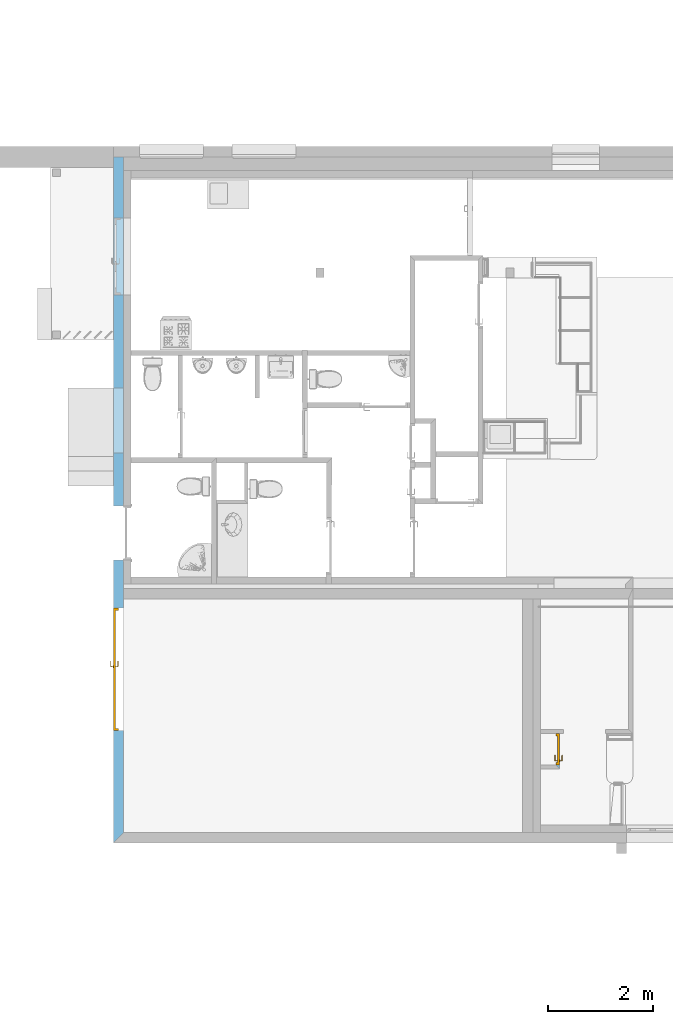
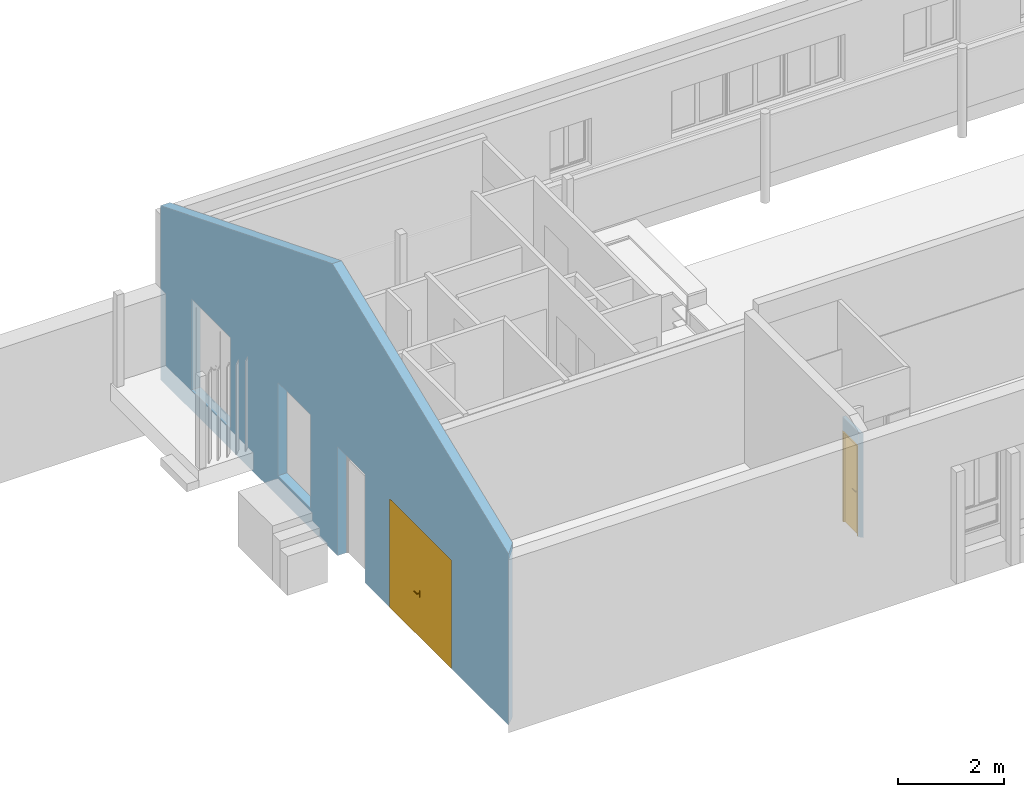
# One storey, part 14 of 34: 2 doors, 5 openings, plus 2 elements that do not belong to this part.
"""IFC2X3 building model written with IfcOpenShell, lengths in metres."""

from ifc_helpers import new_model, entity, si_unit, converted_unit, derived_unit, money_unit, direction, frame, origin_with_axes, origin_2d_with_axis, place, context, subcontext, project, spatial, polyline, rectangle, outline, extrude, clip, bounded_halfspace, faceted_brep, material, layer, layer_set, layer_usage, type_object, element, fill, save


model = new_model("IFC2X3")

# Units and contexts
model_context = context("Model", 3, precision=1e-05, world=origin_with_axes(), true_north=direction((0.0, 1.0)))
body_context = subcontext(model_context, "Body", "Model", "MODEL_VIEW")
ifc_project = project(units=[si_unit("LENGTHUNIT", "METRE"), si_unit("AREAUNIT", "SQUARE_METRE"), si_unit("VOLUMEUNIT", "CUBIC_METRE"), converted_unit("PLANEANGLEUNIT", "DEGREE", entity("IfcPlaneAngleMeasure", 0.0174532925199), si_unit("PLANEANGLEUNIT", "RADIAN"), dimensions=[0, 0, 0, 0, 0, 0, 0]), money_unit("CHF"), converted_unit("TIMEUNIT", "Year", entity("IfcTimeMeasure", 31556926.0), si_unit("TIMEUNIT", "SECOND"), dimensions=[0, 0, 1, 0, 0, 0, 0]), si_unit("MASSUNIT", "GRAM", prefix="KILO"), si_unit("THERMODYNAMICTEMPERATUREUNIT", "DEGREE_CELSIUS"), si_unit("LUMINOUSINTENSITYUNIT", "LUMEN"), si_unit("ENERGYUNIT", "JOULE", prefix="MEGA"), derived_unit("THERMALCONDUCTANCEUNIT", [(si_unit("POWERUNIT", "WATT"), 1), (si_unit("LENGTHUNIT", "METRE"), -1), (si_unit("THERMODYNAMICTEMPERATUREUNIT", "KELVIN"), -1)]), derived_unit("SPECIFICHEATCAPACITYUNIT", [(si_unit("ENERGYUNIT", "JOULE"), 1), (si_unit("MASSUNIT", "GRAM", prefix="KILO"), -1), (si_unit("THERMODYNAMICTEMPERATUREUNIT", "KELVIN"), -1)]), derived_unit("MASSDENSITYUNIT", [(si_unit("MASSUNIT", "GRAM", prefix="KILO"), 1), (si_unit("VOLUMEUNIT", "CUBIC_METRE"), -1)])], contexts=[model_context])

# Site, building, storey
site_placement = place(None, origin_with_axes())
site = spatial("IfcSite", under=ifc_project, at=site_placement, Name="Site", CompositionType="ELEMENT")
building_placement = place(site_placement, origin_with_axes())
building = spatial("IfcBuilding", under=site, at=building_placement, Name="Bâtiment", CompositionType="ELEMENT")
storey_placement = place(building_placement, origin_with_axes())
storey = spatial("IfcBuildingStorey", under=building, at=storey_placement, Name="RDC", CompositionType="ELEMENT", Elevation=-5.32907e-15)

# Wall, openings, door
ifc_material_1 = material(Name="Diagonales 1167258944")
ifc_layer_1 = layer(ifc_material_1, 0.2, ventilated="UNKNOWN")
ifc_layer_set_1 = layer_set([ifc_layer_1], Name="Diagonales 1167258944 0.2")
ifc_layer_usage_1 = layer_usage(ifc_layer_set_1, "AXIS2", "NEGATIVE", 0.0)
wall_type_1 = type_object("IfcWallType", Name="Diagonales 1167258944 200", PredefinedType="NOTDEFINED")
wall_1_placement = place(storey_placement, frame((1667.41729001, 177.38004191, 0.0), z_axis=(0.0, 0.0, 1.0), x_axis=(0.0, 1.0, 0.0)))
wall_1 = element("IfcWallStandardCase", 1, at=wall_1_placement, inside=storey, type_object=wall_type_1, material=ifc_layer_usage_1, Name="Mur-006", context=body_context, shape_type="Clipping", body=[
    clip(clip(clip(clip(extrude(outline(polyline([(0.2, -0.2), (13.12, -0.2), (13.12, 0.0), (0.0, 0.0), (0.2, -0.2)])), origin_with_axes(), (0.0, 0.0, 1.0), 6.78521652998), bounded_halfspace(frame((3.21237436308, 0.0, 8.03093590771), z_axis=(-0.371390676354, 0.0, -0.928476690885), x_axis=(0.0, 1.0, 0.0)), True, origin_with_axes(), polyline([(6.67517251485, -0.21), (13.8351825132, -0.21), (13.8351825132, 0.01), (6.67517251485, 0.01), (6.67517251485, -0.21)]))), bounded_halfspace(frame((-1.37205844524, 0.0, 3.4301461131), z_axis=(0.371390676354, 0.0, -0.928476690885), x_axis=(0.0, 1.0, 0.0)), True, origin_with_axes(), polyline([(-0.492892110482, -0.21), (6.66711788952, -0.21), (6.66711788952, 0.01), (-0.492892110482, 0.01), (-0.492892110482, -0.21)]))), bounded_halfspace(frame((3.19162261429, 0.0, 7.97905653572), z_axis=(-0.371390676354, 0.0, -0.928476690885), x_axis=(0.0, 1.0, 0.0)), True, origin_with_axes(), polyline([(6.645, -0.21), (13.6119553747, -0.21), (13.6119553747, 0.01), (6.645, 0.01), (6.645, -0.21)]))), bounded_halfspace(frame((-1.35851916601, 0.0, 3.39629791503), z_axis=(0.371390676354, 0.0, -0.928476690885), x_axis=(0.0, 1.0, 0.0)), True, origin_with_axes(), polyline([(-0.30001, -0.21), (6.645, -0.21), (6.645, 0.01), (-0.30001, 0.01), (-0.30001, -0.21)]))),
])
opening_1_placement = place(wall_1_placement, frame((8.08126066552, 0.0, 0.47), z_axis=(0.0, 0.0, 1.0), x_axis=(1.0, 0.0, 0.0)))
element("IfcOpeningElement", 2, at=opening_1_placement, cuts=wall_1, Name="Por-004", context=body_context, shape_type="SweptSolid", body=[
    extrude(rectangle(XDim=1.24, YDim=2.15, at=origin_2d_with_axis()), frame((0.0, -0.2, 1.075), z_axis=(0.0, 1.0, 0.0), x_axis=(1.0, 0.0, 0.0)), (0.0, 0.0, 1.0), 0.6),
])
opening_2_placement = place(wall_1_placement, frame((3.32, 0.0, 0.0), z_axis=(0.0, 0.0, 1.0), x_axis=(1.0, 0.0, 0.0)))
opening_2 = element("IfcOpeningElement", 3, at=opening_2_placement, cuts=wall_1, Name="Por-006", context=body_context, shape_type="SweptSolid", body=[
    extrude(rectangle(XDim=2.34, YDim=2.5, at=origin_2d_with_axis()), frame((0.0, -0.2, 1.25), z_axis=(0.0, 1.0, 0.0), x_axis=(1.0, 0.0, 0.0)), (0.0, 0.0, 1.0), 0.6),
])
opening_3_placement = place(wall_1_placement, frame((5.93030712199, 0.0, 0.0), z_axis=(0.0, 0.0, 1.0), x_axis=(1.0, 0.0, 0.0)))
element("IfcOpeningElement", 4, at=opening_3_placement, cuts=wall_1, Name="Por-004", context=body_context, shape_type="SweptSolid", body=[
    extrude(rectangle(XDim=1.03, YDim=2.5, at=origin_2d_with_axis()), frame((0.0, 0.0, 1.25), z_axis=(0.0, -1.0, 0.0), x_axis=(1.0, 0.0, 0.0)), (0.0, 0.0, -1.0), 0.2),
    extrude(rectangle(XDim=1.03, YDim=2.5, at=origin_2d_with_axis()), frame((0.0, 0.0, 1.25), z_axis=(0.0, 1.0, 0.0), x_axis=(1.0, 0.0, 0.0)), (0.0, 0.0, -1.0), 0.2),
])
opening_4_placement = place(wall_1_placement, frame((11.2210248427, 0.0, 0.47), z_axis=(0.0, 0.0, 1.0), x_axis=(1.0, 0.0, 0.0)))
element("IfcOpeningElement", 5, at=opening_4_placement, cuts=wall_1, Name="Por-007", context=body_context, shape_type="SweptSolid", body=[
    extrude(rectangle(XDim=1.47, YDim=2.1, at=origin_2d_with_axis()), frame((0.0, 0.0, 1.05), z_axis=(0.0, -1.0, 0.0), x_axis=(1.0, 0.0, 0.0)), (0.0, 0.0, -1.0), 0.2),
    extrude(rectangle(XDim=1.47, YDim=2.1, at=origin_2d_with_axis()), frame((0.0, 0.0, 1.05), z_axis=(0.0, 1.0, 0.0), x_axis=(1.0, 0.0, 0.0)), (0.0, 0.0, -1.0), 0.2),
])
door_style_1 = type_object("IfcDoorStyle", Name="Porte double 25", ConstructionType="NOTDEFINED", OperationType="DOUBLE_DOOR_SINGLE_SWING", ParameterTakesPrecedence=False, Sizeable=False)
door_1_placement = place(opening_2_placement, frame((-1.17, 0.0, 0.0), z_axis=(0.0, 0.0, 1.0), x_axis=(1.0, 0.0, 0.0)))
door_1 = element("IfcDoor", 6, at=door_1_placement, inside=storey, type_object=door_style_1, Name="Por-006", OverallHeight=2.5, OverallWidth=2.34, context=body_context, shape_type="Brep", body=[
    faceted_brep([(0.04, -0.04, 0.0), (0.04, -0.04, 2.46), (0.04, -0.1, 2.46), (0.04, -0.1, 0.0), (0.028, -0.04, 2.46), (0.028, -0.04, 0.0), (0.028, 0.0, 2.46), (0.0, 0.0, 2.46), (0.0, -0.1, 2.46), (0.0, -0.1, 0.0), (0.0, 0.0, 0.0), (0.028, 0.0, 0.0)], [[[0, 1, 2, 3]], [[4, 1, 0, 5]], [[4, 6, 7, 8, 2, 1]], [[3, 2, 8, 9]], [[5, 0, 3, 9, 10, 11]], [[6, 4, 5, 11]], [[6, 11, 10, 7]], [[10, 9, 8, 7]]]),
    faceted_brep([(2.312, -0.04, 2.46), (2.3, -0.04, 2.46), (2.3, -0.1, 2.46), (2.34, -0.1, 2.46), (2.34, 0.0, 2.46), (2.312, 0.0, 2.46), (2.312, -0.04, 0.0), (2.3, -0.04, 0.0), (2.3, -0.1, 0.0), (2.34, -0.1, 0.0), (2.34, 0.0, 0.0), (2.312, 0.0, 0.0)], [[[0, 1, 2, 3, 4, 5]], [[1, 0, 6, 7]], [[1, 7, 8, 2]], [[3, 2, 8, 9]], [[4, 3, 9, 10]], [[11, 5, 4, 10]], [[0, 5, 11, 6]], [[6, 11, 10, 9, 8, 7]]]),
    faceted_brep([(0.028, 0.0, 2.472), (0.028, 0.0, 2.46), (0.0, 0.0, 2.46), (0.0, 0.0, 2.5), (2.34, 0.0, 2.5), (2.34, 0.0, 2.46), (2.312, 0.0, 2.46), (2.312, 0.0, 2.472), (0.028, -0.04, 2.472), (0.028, -0.04, 2.46), (0.04, -0.04, 2.46), (0.04, -0.1, 2.46), (0.0, -0.1, 2.46), (0.0, -0.1, 2.5), (2.34, -0.1, 2.5), (2.34, -0.1, 2.46), (2.312, -0.04, 2.46), (2.3, -0.1, 2.46), (2.3, -0.04, 2.46), (2.312, -0.04, 2.472)], [[[0, 1, 2, 3, 4, 5, 6, 7]], [[1, 0, 8, 9]], [[9, 10, 11, 12, 2, 1]], [[2, 12, 13, 3]], [[3, 13, 14, 4]], [[4, 14, 15, 5]], [[16, 6, 5, 15, 17, 18]], [[7, 6, 16, 19]], [[0, 7, 19, 8]], [[16, 18, 10, 9, 8, 19]], [[10, 18, 17, 11]], [[17, 15, 14, 13, 12, 11]]]),
    faceted_brep([(1.195, -0.04, 0.93), (1.19690301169, -0.04, 0.920432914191), (1.19690301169, -0.045, 0.920432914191), (1.195, -0.045, 0.93), (1.195, -0.04, 1.055), (1.19690301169, -0.04, 1.06456708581), (1.20232233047, -0.04, 1.07267766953), (1.21043291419, -0.04, 1.07809698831), (1.22, -0.04, 1.08), (1.22956708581, -0.04, 1.07809698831), (1.23767766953, -0.04, 1.07267766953), (1.24309698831, -0.04, 1.06456708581), (1.245, -0.04, 1.055), (1.245, -0.04, 0.93), (1.24309698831, -0.04, 0.920432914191), (1.23767766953, -0.04, 0.91232233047), (1.22956708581, -0.04, 0.906903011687), (1.22, -0.04, 0.905), (1.21043291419, -0.04, 0.906903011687), (1.20232233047, -0.04, 0.91232233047), (1.20232233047, -0.045, 0.91232233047), (1.21043291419, -0.045, 0.906903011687), (1.22, -0.045, 0.905), (1.22956708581, -0.045, 0.906903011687), (1.23767766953, -0.045, 0.91232233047), (1.24309698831, -0.045, 0.920432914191), (1.245, -0.045, 0.93), (1.245, -0.045, 1.055), (1.24309698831, -0.045, 1.06456708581), (1.23767766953, -0.045, 1.07267766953), (1.22956708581, -0.045, 1.07809698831), (1.22, -0.045, 1.08), (1.21043291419, -0.045, 1.07809698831), (1.20232233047, -0.045, 1.07267766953), (1.19690301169, -0.045, 1.06456708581), (1.195, -0.045, 1.055)], [[[0, 1, 2, 3]], [[0, 4, 5, 6, 7, 8, 9, 10, 11, 12, 13, 14, 15, 16, 17, 18, 19, 1]], [[1, 19, 20, 2]], [[3, 2, 20, 21, 22, 23, 24, 25, 26, 27, 28, 29, 30, 31, 32, 33, 34, 35]], [[4, 0, 3, 35]], [[5, 4, 35, 34]], [[6, 5, 34, 33]], [[7, 6, 33, 32]], [[8, 7, 32, 31]], [[9, 8, 31, 30]], [[10, 9, 30, 29]], [[11, 10, 29, 28]], [[12, 11, 28, 27]], [[13, 12, 27, 26]], [[14, 13, 26, 25]], [[15, 14, 25, 24]], [[16, 15, 24, 23]], [[17, 16, 23, 22]], [[18, 17, 22, 21]], [[19, 18, 21, 20]]]),
    faceted_brep([(1.2275, -0.045, 1.005), (1.2275, -0.075, 1.005), (1.2275, -0.075, 0.995), (1.2275, -0.045, 0.995), (1.2125, -0.045, 1.005), (1.2125, -0.082, 1.005), (1.21348956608, -0.0869748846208, 1.005), (1.21630761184, -0.0911923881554, 1.005), (1.22052511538, -0.0940104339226, 1.005), (1.2255, -0.095, 1.005), (1.3325, -0.095, 1.005), (1.3325, -0.093, 1.005), (1.33151043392, -0.0880251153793, 1.005), (1.32869238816, -0.0838076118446, 1.005), (1.32447488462, -0.0809895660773, 1.005), (1.3195, -0.08, 1.005), (1.2325, -0.08, 1.005), (1.23058658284, -0.0796193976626, 1.005), (1.22896446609, -0.0785355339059, 1.005), (1.22788060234, -0.0769134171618, 1.005), (1.22788060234, -0.0769134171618, 0.995), (1.22896446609, -0.0785355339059, 0.995), (1.23058658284, -0.0796193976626, 0.995), (1.2325, -0.08, 0.995), (1.3195, -0.08, 0.995), (1.32447488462, -0.0809895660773, 0.995), (1.32869238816, -0.0838076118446, 0.995), (1.33151043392, -0.0880251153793, 0.995), (1.3325, -0.093, 0.995), (1.3325, -0.095, 0.995), (1.2255, -0.095, 0.995), (1.22052511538, -0.0940104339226, 0.995), (1.21630761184, -0.0911923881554, 0.995), (1.21348956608, -0.0869748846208, 0.995), (1.2125, -0.082, 0.995), (1.2125, -0.045, 0.995)], [[[0, 1, 2, 3]], [[0, 4, 5, 6, 7, 8, 9, 10, 11, 12, 13, 14, 15, 16, 17, 18, 19, 1]], [[1, 19, 20, 2]], [[3, 2, 20, 21, 22, 23, 24, 25, 26, 27, 28, 29, 30, 31, 32, 33, 34, 35]], [[4, 0, 3, 35]], [[5, 4, 35, 34]], [[6, 5, 34, 33]], [[7, 6, 33, 32]], [[8, 7, 32, 31]], [[9, 8, 31, 30]], [[10, 9, 30, 29]], [[11, 10, 29, 28]], [[12, 11, 28, 27]], [[13, 12, 27, 26]], [[14, 13, 26, 25]], [[15, 14, 25, 24]], [[16, 15, 24, 23]], [[17, 16, 23, 22]], [[18, 17, 22, 21]], [[19, 18, 21, 20]]]),
    faceted_brep([(1.195, 0.0, 0.93), (1.195, 0.005, 0.93), (1.19690301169, 0.005, 0.920432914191), (1.19690301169, 0.0, 0.920432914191), (1.195, 0.0, 1.055), (1.195, 0.005, 1.055), (1.19690301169, 0.005, 1.06456708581), (1.20232233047, 0.005, 1.07267766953), (1.21043291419, 0.005, 1.07809698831), (1.22, 0.005, 1.08), (1.22956708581, 0.005, 1.07809698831), (1.23767766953, 0.005, 1.07267766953), (1.24309698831, 0.005, 1.06456708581), (1.245, 0.005, 1.055), (1.245, 0.005, 0.93), (1.24309698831, 0.005, 0.920432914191), (1.23767766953, 0.005, 0.91232233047), (1.22956708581, 0.005, 0.906903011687), (1.22, 0.005, 0.905), (1.21043291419, 0.005, 0.906903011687), (1.20232233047, 0.005, 0.91232233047), (1.20232233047, 0.0, 0.91232233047), (1.21043291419, 0.0, 0.906903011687), (1.22, 0.0, 0.905), (1.22956708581, 0.0, 0.906903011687), (1.23767766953, 0.0, 0.91232233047), (1.24309698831, 0.0, 0.920432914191), (1.245, 0.0, 0.93), (1.245, 0.0, 1.055), (1.24309698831, 0.0, 1.06456708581), (1.23767766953, 0.0, 1.07267766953), (1.22956708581, 0.0, 1.07809698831), (1.22, 0.0, 1.08), (1.21043291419, 0.0, 1.07809698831), (1.20232233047, 0.0, 1.07267766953), (1.19690301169, 0.0, 1.06456708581)], [[[0, 1, 2, 3]], [[4, 5, 1, 0]], [[1, 5, 6, 7, 8, 9, 10, 11, 12, 13, 14, 15, 16, 17, 18, 19, 20, 2]], [[3, 2, 20, 21]], [[0, 3, 21, 22, 23, 24, 25, 26, 27, 28, 29, 30, 31, 32, 33, 34, 35, 4]], [[35, 6, 5, 4]], [[34, 7, 6, 35]], [[33, 8, 7, 34]], [[32, 9, 8, 33]], [[31, 10, 9, 32]], [[30, 11, 10, 31]], [[29, 12, 11, 30]], [[28, 13, 12, 29]], [[27, 14, 13, 28]], [[26, 15, 14, 27]], [[25, 16, 15, 26]], [[24, 17, 16, 25]], [[23, 18, 17, 24]], [[22, 19, 18, 23]], [[21, 20, 19, 22]]]),
    faceted_brep([(1.2275, 0.005, 1.005), (1.2275, 0.005, 0.995), (1.2275, 0.035, 0.995), (1.2275, 0.035, 1.005), (1.2125, 0.005, 1.005), (1.2125, 0.005, 0.995), (1.2125, 0.042, 0.995), (1.21348956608, 0.0469748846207, 0.995), (1.21630761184, 0.0511923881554, 0.995), (1.22052511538, 0.0540104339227, 0.995), (1.2255, 0.055, 0.995), (1.3325, 0.055, 0.995), (1.3325, 0.053, 0.995), (1.33151043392, 0.0480251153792, 0.995), (1.32869238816, 0.0438076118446, 0.995), (1.32447488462, 0.0409895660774, 0.995), (1.3195, 0.04, 0.995), (1.2325, 0.04, 0.995), (1.23058658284, 0.0396193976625, 0.995), (1.22896446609, 0.0385355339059, 0.995), (1.22788060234, 0.0369134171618, 0.995), (1.22788060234, 0.0369134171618, 1.005), (1.22896446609, 0.0385355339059, 1.005), (1.23058658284, 0.0396193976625, 1.005), (1.2325, 0.04, 1.005), (1.3195, 0.04, 1.005), (1.32447488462, 0.0409895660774, 1.005), (1.32869238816, 0.0438076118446, 1.005), (1.33151043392, 0.0480251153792, 1.005), (1.3325, 0.053, 1.005), (1.3325, 0.055, 1.005), (1.2255, 0.055, 1.005), (1.22052511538, 0.0540104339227, 1.005), (1.21630761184, 0.0511923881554, 1.005), (1.21348956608, 0.0469748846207, 1.005), (1.2125, 0.042, 1.005)], [[[0, 1, 2, 3]], [[4, 5, 1, 0]], [[1, 5, 6, 7, 8, 9, 10, 11, 12, 13, 14, 15, 16, 17, 18, 19, 20, 2]], [[3, 2, 20, 21]], [[0, 3, 21, 22, 23, 24, 25, 26, 27, 28, 29, 30, 31, 32, 33, 34, 35, 4]], [[35, 6, 5, 4]], [[34, 7, 6, 35]], [[33, 8, 7, 34]], [[32, 9, 8, 33]], [[31, 10, 9, 32]], [[30, 11, 10, 31]], [[29, 12, 11, 30]], [[28, 13, 12, 29]], [[27, 14, 13, 28]], [[26, 15, 14, 27]], [[25, 16, 15, 26]], [[24, 17, 16, 25]], [[23, 18, 17, 24]], [[22, 19, 18, 23]], [[21, 20, 19, 22]]]),
    faceted_brep([(2.312, 0.0, 0.0), (2.312, -0.04, 0.0), (1.17, -0.04, 0.0), (1.17, 0.0, 0.0), (2.312, 0.0, 2.472), (2.312, -0.04, 2.472), (1.17, -0.04, 2.472), (1.17, 0.0, 2.472)], [[[0, 1, 2, 3]], [[4, 5, 1, 0]], [[1, 5, 6, 2]], [[3, 2, 6, 7]], [[0, 3, 7, 4]], [[7, 6, 5, 4]]]),
    faceted_brep([(0.028, 0.0, 0.0), (1.17, 0.0, 0.0), (1.17, -0.04, 0.0), (0.028, -0.04, 0.0), (0.028, 0.0, 2.472), (1.17, 0.0, 2.472), (1.17, -0.04, 2.472), (0.028, -0.04, 2.472)], [[[0, 1, 2, 3]], [[0, 4, 5, 1]], [[1, 5, 6, 2]], [[3, 2, 6, 7]], [[4, 0, 3, 7]], [[5, 4, 7, 6]]]),
])
fill(opening_2, door_1)

# Wall, opening, door
ifc_material_2 = material(Name="Plâtre lissé 291446788")
ifc_layer_2 = layer(ifc_material_2, 0.027, ventilated="UNKNOWN")
ifc_material_3 = material(Name="Isolation laine de pierre 307970822")
ifc_layer_3 = layer(ifc_material_3, 0.032, ventilated="UNKNOWN")
ifc_layer_4 = layer(ifc_material_2, 0.0113, ventilated="UNKNOWN")
ifc_layer_set_2 = layer_set([ifc_layer_2, ifc_layer_3, ifc_layer_4], Name="Cloison: Gaine TECH 72/45")
ifc_layer_usage_2 = layer_usage(ifc_layer_set_2, "AXIS2", "NEGATIVE", 0.0)
wall_type_2 = type_object("IfcWallType", Name="Cloison: Gaine TECH 72/45  70", PredefinedType="NOTDEFINED")
wall_2_placement = place(storey_placement, frame((1675.95729001, 179.55004191, 0.47), z_axis=(0.0, 0.0, 1.0), x_axis=(0.0, -1.0, 0.0)))
wall_2 = element("IfcWallStandardCase", 7, at=wall_2_placement, inside=storey, type_object=wall_type_2, material=ifc_layer_usage_2, Name="Mur-010", context=body_context, shape_type="SweptSolid", body=[
    extrude(outline(polyline([(0.081, -0.0703), (0.6827, -0.0703), (0.753, 0.0), (0.081, 0.0), (0.081, -0.0703)])), origin_with_axes(), (0.0, 0.0, 1.0), 2.40444223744),
])
opening_5_placement = place(wall_2_placement, frame((0.379, 0.0, 0.0), z_axis=(0.0, 0.0, 1.0), x_axis=(1.0, 0.0, 0.0)))
opening_5 = element("IfcOpeningElement", 8, at=opening_5_placement, cuts=wall_2, Name="Por-004", context=body_context, shape_type="SweptSolid", body=[
    extrude(rectangle(XDim=0.596, YDim=2.1, at=origin_2d_with_axis()), frame((0.0, -0.0703, 1.05), z_axis=(0.0, -1.0, 0.0), x_axis=(-1.0, 0.0, 0.0)), (0.0, 0.0, -1.0), 0.2109),
])
door_style_2 = type_object("IfcDoorStyle", Name="Porte 25", ConstructionType="NOTDEFINED", OperationType="SINGLE_SWING_LEFT", ParameterTakesPrecedence=False, Sizeable=False)
door_2_placement = place(opening_5_placement, frame((-0.27, 0.0, 0.0), z_axis=(0.0, 0.0, 1.0), x_axis=(1.0, 0.0, 0.0)))
door_2 = element("IfcDoor", 9, at=door_2_placement, inside=storey, type_object=door_style_2, Name="Por-004", OverallHeight=2.1, OverallWidth=0.596, context=body_context, shape_type="Brep", body=[
    faceted_brep([(0.528, -0.04, 0.0), (0.528, -0.0703, 0.0), (0.528, -0.0703, 2.06), (0.528, -0.04, 2.06), (0.54, -0.04, 0.0), (0.54, 0.0, 0.0), (0.568, 0.0, 0.0), (0.568, -0.0703, 0.0), (0.568, -0.0703, 2.06), (0.54, -0.04, 2.06), (0.568, 0.0, 2.06), (0.54, 0.0, 2.06)], [[[0, 1, 2, 3]], [[4, 5, 6, 7, 1, 0]], [[1, 7, 8, 2]], [[9, 3, 2, 8, 10, 11]], [[9, 4, 0, 3]], [[11, 5, 4, 9]], [[11, 10, 6, 5]], [[6, 10, 8, 7]]]),
    faceted_brep([(0.0, -0.04, 2.06), (0.0, 0.0, 2.06), (-0.028, 0.0, 2.06), (-0.028, -0.0703, 2.06), (0.012, -0.0703, 2.06), (0.012, -0.04, 2.06), (0.0, -0.04, 0.0), (0.0, 0.0, 0.0), (-0.028, 0.0, 0.0), (-0.028, -0.0703, 0.0), (0.012, -0.0703, 0.0), (0.012, -0.04, 0.0)], [[[0, 1, 2, 3, 4, 5]], [[0, 6, 7, 1]], [[7, 8, 2, 1]], [[2, 8, 9, 3]], [[3, 9, 10, 4]], [[5, 4, 10, 11]], [[5, 11, 6, 0]], [[6, 11, 10, 9, 8, 7]]]),
    faceted_brep([(0.54, 0.0, 2.072), (0.0, 0.0, 2.072), (0.0, 0.0, 2.06), (-0.028, 0.0, 2.06), (-0.028, 0.0, 2.1), (0.568, 0.0, 2.1), (0.568, 0.0, 2.06), (0.54, 0.0, 2.06), (0.54, -0.04, 2.072), (0.0, -0.04, 2.072), (0.0, -0.04, 2.06), (0.012, -0.04, 2.06), (0.012, -0.0703, 2.06), (-0.028, -0.0703, 2.06), (-0.028, -0.0703, 2.1), (0.568, -0.0703, 2.1), (0.568, -0.0703, 2.06), (0.54, -0.04, 2.06), (0.528, -0.0703, 2.06), (0.528, -0.04, 2.06)], [[[0, 1, 2, 3, 4, 5, 6, 7]], [[0, 8, 9, 1]], [[1, 9, 10, 2]], [[10, 11, 12, 13, 3, 2]], [[4, 3, 13, 14]], [[5, 4, 14, 15]], [[6, 5, 15, 16]], [[17, 7, 6, 16, 18, 19]], [[7, 17, 8, 0]], [[10, 9, 8, 17, 19, 11]], [[19, 18, 12, 11]], [[12, 18, 16, 15, 14, 13]]]),
    faceted_brep([(0.515, -0.04, 0.93), (0.515, -0.045, 0.93), (0.513096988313, -0.045, 0.920432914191), (0.513096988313, -0.04, 0.920432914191), (0.515, -0.04, 1.055), (0.515, -0.045, 1.055), (0.513096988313, -0.045, 1.06456708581), (0.50767766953, -0.045, 1.07267766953), (0.499567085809, -0.045, 1.07809698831), (0.49, -0.045, 1.08), (0.480432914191, -0.045, 1.07809698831), (0.47232233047, -0.045, 1.07267766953), (0.466903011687, -0.045, 1.06456708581), (0.465, -0.045, 1.055), (0.465, -0.045, 0.93), (0.466903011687, -0.045, 0.920432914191), (0.47232233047, -0.045, 0.91232233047), (0.480432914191, -0.045, 0.906903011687), (0.49, -0.045, 0.905), (0.499567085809, -0.045, 0.906903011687), (0.50767766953, -0.045, 0.91232233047), (0.50767766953, -0.04, 0.91232233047), (0.499567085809, -0.04, 0.906903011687), (0.49, -0.04, 0.905), (0.480432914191, -0.04, 0.906903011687), (0.47232233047, -0.04, 0.91232233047), (0.466903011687, -0.04, 0.920432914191), (0.465, -0.04, 0.93), (0.465, -0.04, 1.055), (0.466903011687, -0.04, 1.06456708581), (0.47232233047, -0.04, 1.07267766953), (0.480432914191, -0.04, 1.07809698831), (0.49, -0.04, 1.08), (0.499567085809, -0.04, 1.07809698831), (0.50767766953, -0.04, 1.07267766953), (0.513096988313, -0.04, 1.06456708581)], [[[0, 1, 2, 3]], [[4, 5, 1, 0]], [[1, 5, 6, 7, 8, 9, 10, 11, 12, 13, 14, 15, 16, 17, 18, 19, 20, 2]], [[3, 2, 20, 21]], [[0, 3, 21, 22, 23, 24, 25, 26, 27, 28, 29, 30, 31, 32, 33, 34, 35, 4]], [[35, 6, 5, 4]], [[34, 7, 6, 35]], [[33, 8, 7, 34]], [[32, 9, 8, 33]], [[31, 10, 9, 32]], [[30, 11, 10, 31]], [[29, 12, 11, 30]], [[28, 13, 12, 29]], [[27, 14, 13, 28]], [[26, 15, 14, 27]], [[25, 16, 15, 26]], [[24, 17, 16, 25]], [[23, 18, 17, 24]], [[22, 19, 18, 23]], [[21, 20, 19, 22]]]),
    faceted_brep([(0.4825, -0.045, 1.005), (0.4825, -0.045, 0.995), (0.4825, -0.075, 0.995), (0.4825, -0.075, 1.005), (0.4975, -0.045, 1.005), (0.4975, -0.045, 0.995), (0.4975, -0.082, 0.995), (0.496510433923, -0.0869748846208, 0.995), (0.493692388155, -0.0911923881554, 0.995), (0.489474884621, -0.0940104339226, 0.995), (0.4845, -0.095, 0.995), (0.3775, -0.095, 0.995), (0.3775, -0.093, 0.995), (0.378489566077, -0.0880251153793, 0.995), (0.381307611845, -0.0838076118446, 0.995), (0.385525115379, -0.0809895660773, 0.995), (0.3905, -0.08, 0.995), (0.4775, -0.08, 0.995), (0.479413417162, -0.0796193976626, 0.995), (0.481035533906, -0.0785355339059, 0.995), (0.482119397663, -0.0769134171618, 0.995), (0.482119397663, -0.0769134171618, 1.005), (0.481035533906, -0.0785355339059, 1.005), (0.479413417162, -0.0796193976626, 1.005), (0.4775, -0.08, 1.005), (0.3905, -0.08, 1.005), (0.385525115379, -0.0809895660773, 1.005), (0.381307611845, -0.0838076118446, 1.005), (0.378489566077, -0.0880251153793, 1.005), (0.3775, -0.093, 1.005), (0.3775, -0.095, 1.005), (0.4845, -0.095, 1.005), (0.489474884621, -0.0940104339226, 1.005), (0.493692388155, -0.0911923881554, 1.005), (0.496510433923, -0.0869748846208, 1.005), (0.4975, -0.082, 1.005)], [[[0, 1, 2, 3]], [[4, 5, 1, 0]], [[1, 5, 6, 7, 8, 9, 10, 11, 12, 13, 14, 15, 16, 17, 18, 19, 20, 2]], [[3, 2, 20, 21]], [[0, 3, 21, 22, 23, 24, 25, 26, 27, 28, 29, 30, 31, 32, 33, 34, 35, 4]], [[35, 6, 5, 4]], [[34, 7, 6, 35]], [[33, 8, 7, 34]], [[32, 9, 8, 33]], [[31, 10, 9, 32]], [[30, 11, 10, 31]], [[29, 12, 11, 30]], [[28, 13, 12, 29]], [[27, 14, 13, 28]], [[26, 15, 14, 27]], [[25, 16, 15, 26]], [[24, 17, 16, 25]], [[23, 18, 17, 24]], [[22, 19, 18, 23]], [[21, 20, 19, 22]]]),
    faceted_brep([(0.515, 0.0, 0.93), (0.513096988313, 0.0, 0.920432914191), (0.513096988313, 0.005, 0.920432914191), (0.515, 0.005, 0.93), (0.515, 0.0, 1.055), (0.513096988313, 0.0, 1.06456708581), (0.50767766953, 0.0, 1.07267766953), (0.499567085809, 0.0, 1.07809698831), (0.49, 0.0, 1.08), (0.480432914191, 0.0, 1.07809698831), (0.47232233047, 0.0, 1.07267766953), (0.466903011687, 0.0, 1.06456708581), (0.465, 0.0, 1.055), (0.465, 0.0, 0.93), (0.466903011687, 0.0, 0.920432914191), (0.47232233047, 0.0, 0.91232233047), (0.480432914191, 0.0, 0.906903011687), (0.49, 0.0, 0.905), (0.499567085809, 0.0, 0.906903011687), (0.50767766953, 0.0, 0.91232233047), (0.50767766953, 0.005, 0.91232233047), (0.499567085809, 0.005, 0.906903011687), (0.49, 0.005, 0.905), (0.480432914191, 0.005, 0.906903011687), (0.47232233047, 0.005, 0.91232233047), (0.466903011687, 0.005, 0.920432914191), (0.465, 0.005, 0.93), (0.465, 0.005, 1.055), (0.466903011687, 0.005, 1.06456708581), (0.47232233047, 0.005, 1.07267766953), (0.480432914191, 0.005, 1.07809698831), (0.49, 0.005, 1.08), (0.499567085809, 0.005, 1.07809698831), (0.50767766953, 0.005, 1.07267766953), (0.513096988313, 0.005, 1.06456708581), (0.515, 0.005, 1.055)], [[[0, 1, 2, 3]], [[0, 4, 5, 6, 7, 8, 9, 10, 11, 12, 13, 14, 15, 16, 17, 18, 19, 1]], [[1, 19, 20, 2]], [[3, 2, 20, 21, 22, 23, 24, 25, 26, 27, 28, 29, 30, 31, 32, 33, 34, 35]], [[4, 0, 3, 35]], [[5, 4, 35, 34]], [[6, 5, 34, 33]], [[7, 6, 33, 32]], [[8, 7, 32, 31]], [[9, 8, 31, 30]], [[10, 9, 30, 29]], [[11, 10, 29, 28]], [[12, 11, 28, 27]], [[13, 12, 27, 26]], [[14, 13, 26, 25]], [[15, 14, 25, 24]], [[16, 15, 24, 23]], [[17, 16, 23, 22]], [[18, 17, 22, 21]], [[19, 18, 21, 20]]]),
    faceted_brep([(0.4825, 0.005, 1.005), (0.4825, 0.035, 1.005), (0.4825, 0.035, 0.995), (0.4825, 0.005, 0.995), (0.4975, 0.005, 1.005), (0.4975, 0.042, 1.005), (0.496510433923, 0.0469748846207, 1.005), (0.493692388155, 0.0511923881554, 1.005), (0.489474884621, 0.0540104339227, 1.005), (0.4845, 0.055, 1.005), (0.3775, 0.055, 1.005), (0.3775, 0.053, 1.005), (0.378489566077, 0.0480251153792, 1.005), (0.381307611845, 0.0438076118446, 1.005), (0.385525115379, 0.0409895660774, 1.005), (0.3905, 0.04, 1.005), (0.4775, 0.04, 1.005), (0.479413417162, 0.0396193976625, 1.005), (0.481035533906, 0.0385355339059, 1.005), (0.482119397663, 0.0369134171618, 1.005), (0.482119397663, 0.0369134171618, 0.995), (0.481035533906, 0.0385355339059, 0.995), (0.479413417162, 0.0396193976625, 0.995), (0.4775, 0.04, 0.995), (0.3905, 0.04, 0.995), (0.385525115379, 0.0409895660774, 0.995), (0.381307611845, 0.0438076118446, 0.995), (0.378489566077, 0.0480251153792, 0.995), (0.3775, 0.053, 0.995), (0.3775, 0.055, 0.995), (0.4845, 0.055, 0.995), (0.489474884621, 0.0540104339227, 0.995), (0.493692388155, 0.0511923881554, 0.995), (0.496510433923, 0.0469748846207, 0.995), (0.4975, 0.042, 0.995), (0.4975, 0.005, 0.995)], [[[0, 1, 2, 3]], [[0, 4, 5, 6, 7, 8, 9, 10, 11, 12, 13, 14, 15, 16, 17, 18, 19, 1]], [[1, 19, 20, 2]], [[3, 2, 20, 21, 22, 23, 24, 25, 26, 27, 28, 29, 30, 31, 32, 33, 34, 35]], [[4, 0, 3, 35]], [[5, 4, 35, 34]], [[6, 5, 34, 33]], [[7, 6, 33, 32]], [[8, 7, 32, 31]], [[9, 8, 31, 30]], [[10, 9, 30, 29]], [[11, 10, 29, 28]], [[12, 11, 28, 27]], [[13, 12, 27, 26]], [[14, 13, 26, 25]], [[15, 14, 25, 24]], [[16, 15, 24, 23]], [[17, 16, 23, 22]], [[18, 17, 22, 21]], [[19, 18, 21, 20]]]),
    faceted_brep([(0.0, 0.0, 0.0), (0.54, 0.0, 0.0), (0.54, -0.04, 0.0), (0.0, -0.04, 0.0), (0.0, 0.0, 2.072), (0.54, 0.0, 2.072), (0.54, -0.04, 2.072), (0.0, -0.04, 2.072)], [[[0, 1, 2, 3]], [[0, 4, 5, 1]], [[1, 5, 6, 2]], [[3, 2, 6, 7]], [[4, 0, 3, 7]], [[5, 4, 7, 6]]]),
])
fill(opening_5, door_2)

save(model, "model.ifc")
